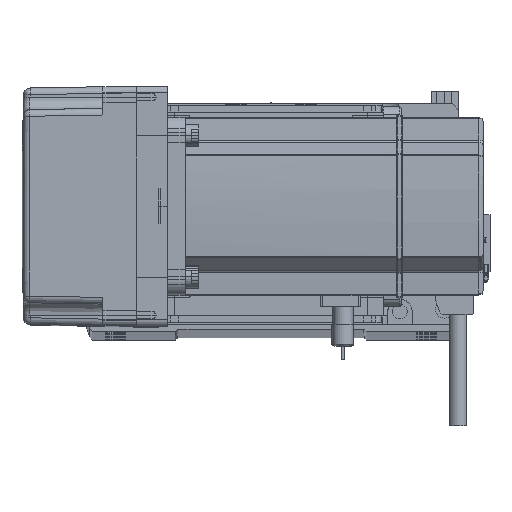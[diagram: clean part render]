
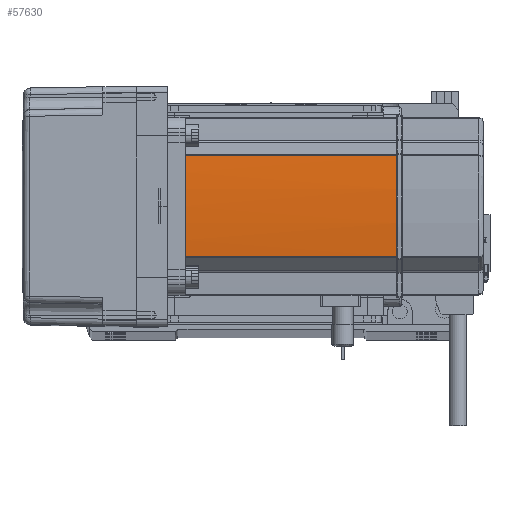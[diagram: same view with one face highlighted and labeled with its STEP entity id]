
A CAD part, top view. The second image highlights one B-rep face of the part: STEP entity #57630.
In plain terms, the highlighted cylindrical face has radius 270 mm (diameter 540 mm), a partial arc.
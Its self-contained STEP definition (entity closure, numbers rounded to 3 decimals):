
#483 = CYLINDRICAL_SURFACE ( 'NONE', #34728, 270. ) ;
#1641 = CARTESIAN_POINT ( 'NONE',  ( 40., 0.127, 134. ) ) ;
#2089 = DIRECTION ( 'NONE',  ( 0., 0., -1. ) ) ;
#2148 = EDGE_CURVE ( 'NONE', #51225, #19505, #40125, .T. ) ;
#3435 = AXIS2_PLACEMENT_3D ( 'NONE', #42863, #14121, #13917 ) ;
#4647 = EDGE_CURVE ( 'NONE', #51225, #6236, #32352, .T. ) ;
#5286 = ORIENTED_EDGE ( 'NONE', *, *, #2148, .F. ) ;
#6003 = CARTESIAN_POINT ( 'NONE',  ( 40., 0.042, 134. ) ) ;
#6236 = VERTEX_POINT ( 'NONE', #53251 ) ;
#6541 = VERTEX_POINT ( 'NONE', #1641 ) ;
#7711 = DIRECTION ( 'NONE',  ( 0., 0., 1. ) ) ;
#11818 = EDGE_CURVE ( 'NONE', #16790, #43698, #23056, .T. ) ;
#12663 = VECTOR ( 'NONE', #7711, 1000. ) ;
#13917 = DIRECTION ( 'NONE',  ( -1., 0., 0. ) ) ;
#14121 = DIRECTION ( 'NONE',  ( 0., 0., -1. ) ) ;
#14494 = CARTESIAN_POINT ( 'NONE',  ( 40., -0.127, 134. ) ) ;
#15045 = AXIS2_PLACEMENT_3D ( 'NONE', #52279, #36890, #46594 ) ;
#16790 = VERTEX_POINT ( 'NONE', #14494 ) ;
#17504 = B_SPLINE_CURVE_WITH_KNOTS ( 'NONE', 3,
 ( #54605, #25886, #6003, #30731 ),
 .UNSPECIFIED., .F., .F.,
 ( 4, 4 ),
 ( 0., 1. ),
 .UNSPECIFIED. ) ;
#19505 = VERTEX_POINT ( 'NONE', #36672 ) ;
#20558 = DIRECTION ( 'NONE',  ( 0., 0., -1. ) ) ;
#21563 = DIRECTION ( 'NONE',  ( -1., 0., 0. ) ) ;
#22603 = ORIENTED_EDGE ( 'NONE', *, *, #11818, .T. ) ;
#22811 = ORIENTED_EDGE ( 'NONE', *, *, #4647, .T. ) ;
#23056 = CIRCLE ( 'NONE', #15045, 270. ) ;
#24018 = FACE_OUTER_BOUND ( 'NONE', #38449, .T. ) ;
#25886 = CARTESIAN_POINT ( 'NONE',  ( 40., -0.042, 134. ) ) ;
#26246 = DIRECTION ( 'NONE',  ( 0., 0., -1. ) ) ;
#27158 = LINE ( 'NONE', #39178, #53636 ) ;
#27363 = CARTESIAN_POINT ( 'NONE',  ( 39.042, 22.724, 58. ) ) ;
#30731 = CARTESIAN_POINT ( 'NONE',  ( 40., 0.127, 134. ) ) ;
#31079 = CARTESIAN_POINT ( 'NONE',  ( -230., 0., 134. ) ) ;
#32352 = LINE ( 'NONE', #27363, #12663 ) ;
#34626 = AXIS2_PLACEMENT_3D ( 'NONE', #31079, #2089, #45652 ) ;
#34728 = AXIS2_PLACEMENT_3D ( 'NONE', #45886, #26246, #21563 ) ;
#36672 = CARTESIAN_POINT ( 'NONE',  ( 39.042, -22.724, 39. ) ) ;
#36890 = DIRECTION ( 'NONE',  ( 0., 0., -1. ) ) ;
#38449 = EDGE_LOOP ( 'NONE', ( #59580, #5286, #22811, #43116, #48081, #22603 ) ) ;
#38512 = CIRCLE ( 'NONE', #34626, 270. ) ;
#39178 = CARTESIAN_POINT ( 'NONE',  ( 39.042, -22.724, 58. ) ) ;
#40125 = CIRCLE ( 'NONE', #3435, 270. ) ;
#42300 = EDGE_CURVE ( 'NONE', #16790, #6541, #17504, .T. ) ;
#42863 = CARTESIAN_POINT ( 'NONE',  ( -230., 0., 39. ) ) ;
#43116 = ORIENTED_EDGE ( 'NONE', *, *, #46960, .T. ) ;
#43698 = VERTEX_POINT ( 'NONE', #51279 ) ;
#45652 = DIRECTION ( 'NONE',  ( -1., 0., 0. ) ) ;
#45707 = CARTESIAN_POINT ( 'NONE',  ( 39.042, 22.724, 39. ) ) ;
#45886 = CARTESIAN_POINT ( 'NONE',  ( -230., 0., 58. ) ) ;
#46594 = DIRECTION ( 'NONE',  ( -1., 0., 0. ) ) ;
#46960 = EDGE_CURVE ( 'NONE', #6236, #6541, #38512, .T. ) ;
#48081 = ORIENTED_EDGE ( 'NONE', *, *, #42300, .F. ) ;
#51119 = EDGE_CURVE ( 'NONE', #43698, #19505, #27158, .T. ) ;
#51225 = VERTEX_POINT ( 'NONE', #45707 ) ;
#51279 = CARTESIAN_POINT ( 'NONE',  ( 39.042, -22.724, 134. ) ) ;
#52279 = CARTESIAN_POINT ( 'NONE',  ( -230., 0., 134. ) ) ;
#53251 = CARTESIAN_POINT ( 'NONE',  ( 39.042, 22.724, 134. ) ) ;
#53636 = VECTOR ( 'NONE', #20558, 1000. ) ;
#54605 = CARTESIAN_POINT ( 'NONE',  ( 40., -0.127, 134. ) ) ;
#57630 = ADVANCED_FACE ( 'NONE', ( #24018 ), #483, .T. ) ;
#59580 = ORIENTED_EDGE ( 'NONE', *, *, #51119, .T. ) ;
